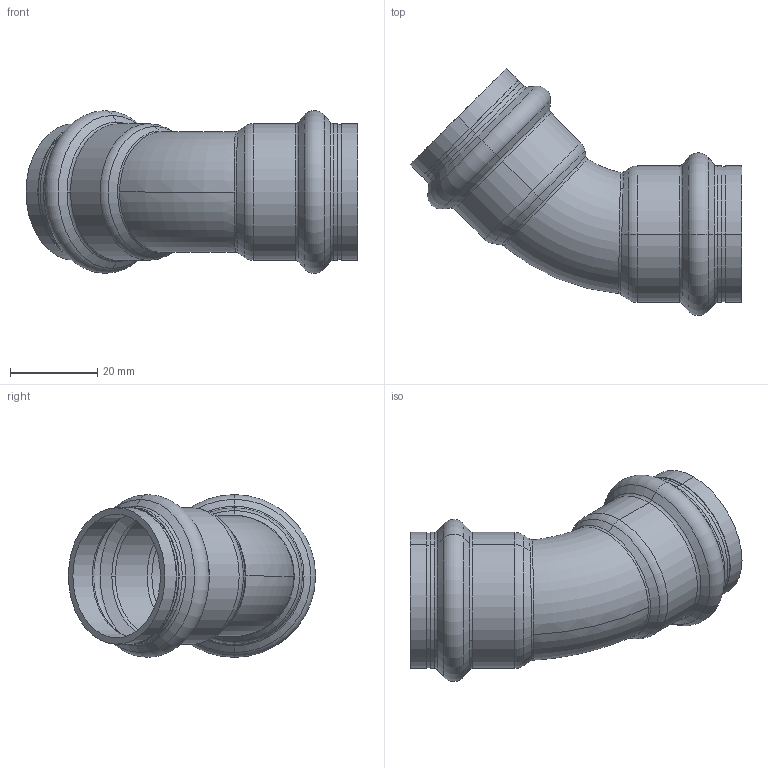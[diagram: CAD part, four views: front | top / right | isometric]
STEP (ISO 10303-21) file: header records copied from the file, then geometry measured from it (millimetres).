
FILE_DESCRIPTION (( 'STEP AP203' ), '1' );
FILE_NAME ('SP5041 Ø28.STEP', '2017-04-24T08:15:09', ( '' ), ( '' ), 'SwSTEP 2.0', 'SolidWorks 2016', '' );
FILE_SCHEMA (( 'CONFIG_CONTROL_DESIGN' ));
Length unit declared in the file: millimetre
Products named in the file (1): SP5041 ﾘ28
Bounding box: 75.9 x 56.5 x 37.2 mm (x, y, z)
Volume: 11062 mm3; surface area: 15237.7 mm2
Topology: 1 solids, 1 shells, 94 faces, 216 edges, 128 vertices
Faces by surface type: torus 36, cylinder 24, cone 24, plane 6, bspline 4
Entity records: 3888 total; most frequent: CARTESIAN_POINT 1630, DIRECTION 518, ORIENTED_EDGE 432, AXIS2_PLACEMENT_3D 235, EDGE_CURVE 216, CIRCLE 144, VERTEX_POINT 128, EDGE_LOOP 100
